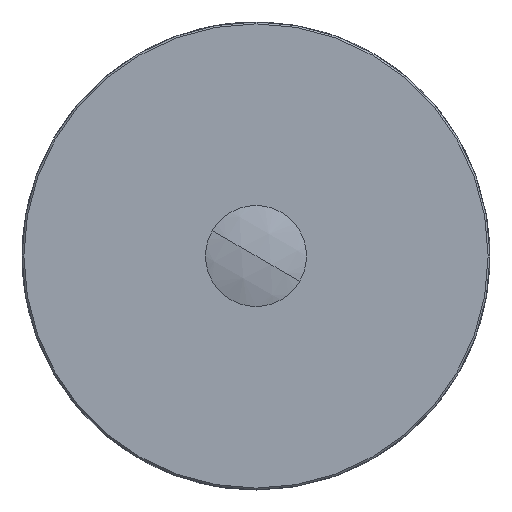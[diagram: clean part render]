
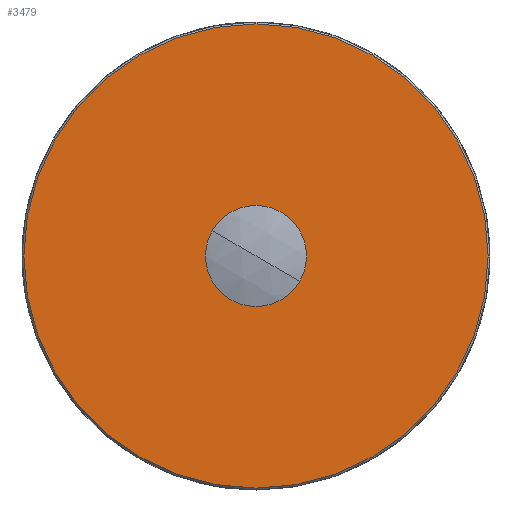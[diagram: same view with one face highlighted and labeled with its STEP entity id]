
A CAD part, front view. The second image highlights one B-rep face of the part: STEP entity #3479.
In plain terms, the highlighted planar face has unit normal (0, -1, 0).
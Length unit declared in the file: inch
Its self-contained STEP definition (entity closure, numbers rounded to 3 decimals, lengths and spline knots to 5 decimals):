
#624 = DIRECTION ( 'NONE',  ( -0.866, 0., 0.5 ) ) ;
#625 = DIRECTION ( 'NONE',  ( 0., -1., 0. ) ) ;
#626 = CARTESIAN_POINT ( 'NONE',  ( -0.28328, -0.24354, 0.01601 ) ) ;
#764 = AXIS2_PLACEMENT_3D ( 'NONE', #626, #625, #624 ) ;
#765 = FACE_BOUND ( 'NONE', #3659, .T. ) ;
#766 = FACE_OUTER_BOUND ( 'NONE', #3666, .T. ) ;
#768 = PLANE ( 'NONE',  #764 ) ;
#831 = CARTESIAN_POINT ( 'NONE',  ( -0.16636, -0.24354, -0.05149 ) ) ;
#832 = DIRECTION ( 'NONE',  ( -0.866, 0., 0.5 ) ) ;
#833 = DIRECTION ( 'NONE',  ( 0., -1., 0. ) ) ;
#834 = CARTESIAN_POINT ( 'NONE',  ( -0.28328, -0.24354, 0.01601 ) ) ;
#835 = AXIS2_PLACEMENT_3D ( 'NONE', #834, #833, #832 ) ;
#836 = CIRCLE ( 'NONE', #835, 0.135 ) ;
#846 = CARTESIAN_POINT ( 'NONE',  ( -0.28328, -0.24354, 0.01601 ) ) ;
#935 = CARTESIAN_POINT ( 'NONE',  ( 0.25366, -0.24354, -0.29399 ) ) ;
#936 = CARTESIAN_POINT ( 'NONE',  ( -0.82021, -0.24354, 0.32601 ) ) ;
#937 = DIRECTION ( 'NONE',  ( -0.866, 0., 0.5 ) ) ;
#938 = DIRECTION ( 'NONE',  ( 0., -1., 0. ) ) ;
#939 = AXIS2_PLACEMENT_3D ( 'NONE', #846, #938, #937 ) ;
#940 = CIRCLE ( 'NONE', #939, 0.62 ) ;
#943 = DIRECTION ( 'NONE',  ( -0.866, 0., 0.5 ) ) ;
#944 = DIRECTION ( 'NONE',  ( 0., -1., 0. ) ) ;
#945 = CARTESIAN_POINT ( 'NONE',  ( -0.28328, -0.24354, 0.01601 ) ) ;
#946 = AXIS2_PLACEMENT_3D ( 'NONE', #945, #944, #943 ) ;
#947 = CIRCLE ( 'NONE', #946, 0.135 ) ;
#1092 = CARTESIAN_POINT ( 'NONE',  ( -0.40019, -0.24354, 0.08351 ) ) ;
#1153 = DIRECTION ( 'NONE',  ( -0.866, 0., 0.5 ) ) ;
#1154 = DIRECTION ( 'NONE',  ( 0., -1., 0. ) ) ;
#1155 = CARTESIAN_POINT ( 'NONE',  ( -0.28328, -0.24354, 0.01601 ) ) ;
#1156 = AXIS2_PLACEMENT_3D ( 'NONE', #1155, #1154, #1153 ) ;
#1157 = CIRCLE ( 'NONE', #1156, 0.62 ) ;
#3470 = ORIENTED_EDGE ( 'NONE', *, *, #3599, .F. ) ;
#3479 = ADVANCED_FACE ( 'NONE', ( #766, #765 ), #768, .T. ) ;
#3573 = EDGE_CURVE ( 'NONE', #3655, #3574, #836, .T. ) ;
#3574 = VERTEX_POINT ( 'NONE', #831 ) ;
#3599 = EDGE_CURVE ( 'NONE', #3574, #3655, #947, .T. ) ;
#3612 = EDGE_CURVE ( 'NONE', #3613, #3614, #940, .T. ) ;
#3613 = VERTEX_POINT ( 'NONE', #936 ) ;
#3614 = VERTEX_POINT ( 'NONE', #935 ) ;
#3655 = VERTEX_POINT ( 'NONE', #1092 ) ;
#3658 = EDGE_CURVE ( 'NONE', #3614, #3613, #1157, .T. ) ;
#3659 = EDGE_LOOP ( 'NONE', ( #3470, #3661 ) ) ;
#3660 = ORIENTED_EDGE ( 'NONE', *, *, #3658, .T. ) ;
#3661 = ORIENTED_EDGE ( 'NONE', *, *, #3573, .F. ) ;
#3665 = ORIENTED_EDGE ( 'NONE', *, *, #3612, .T. ) ;
#3666 = EDGE_LOOP ( 'NONE', ( #3660, #3665 ) ) ;
